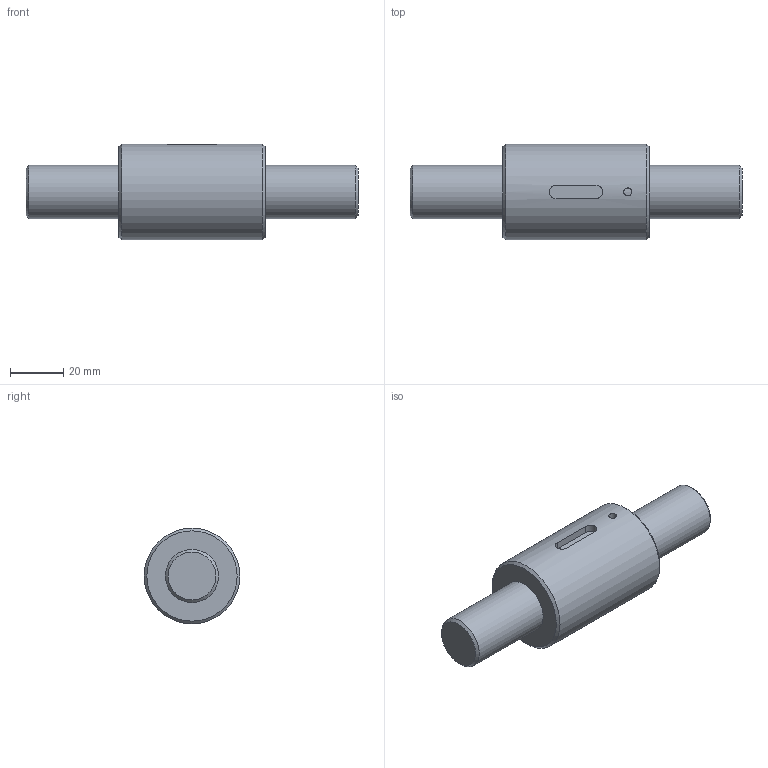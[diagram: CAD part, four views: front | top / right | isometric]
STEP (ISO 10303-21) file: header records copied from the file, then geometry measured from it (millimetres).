
FILE_DESCRIPTION (( 'STEP AP203' ), '1' );
FILE_NAME ('SCNH2010.STEP', '2023-08-16T07:53:02', ( '' ), ( '' ), 'SwSTEP 2.0', 'SolidWorks 2022', '' );
FILE_SCHEMA (( 'CONFIG_CONTROL_DESIGN' ));
Length unit declared in the file: millimetre
Products named in the file (1): SCNH2010
Bounding box: 125 x 36 x 36 mm (x, y, z)
Volume: 77467 mm3; surface area: 19546.3 mm2
Topology: 2 solids, 2 shells, 18 faces, 38 edges, 23 vertices
Faces by surface type: cone 6, plane 5, cylinder 5, bspline 2
Full cylindrical faces by diameter (mm): 20 x2, 36 x1
Entity records: 847 total; most frequent: CARTESIAN_POINT 427, DIRECTION 68, ORIENTED_EDGE 56, EDGE_LOOP 30, AXIS2_PLACEMENT_3D 29, EDGE_CURVE 28, VERTEX_POINT 22, FACE_OUTER_BOUND 21
